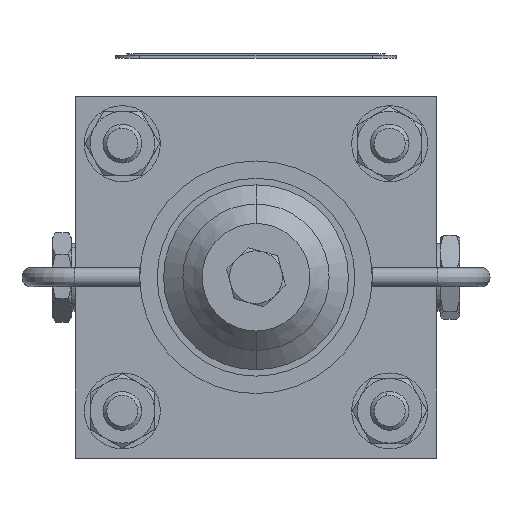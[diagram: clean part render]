
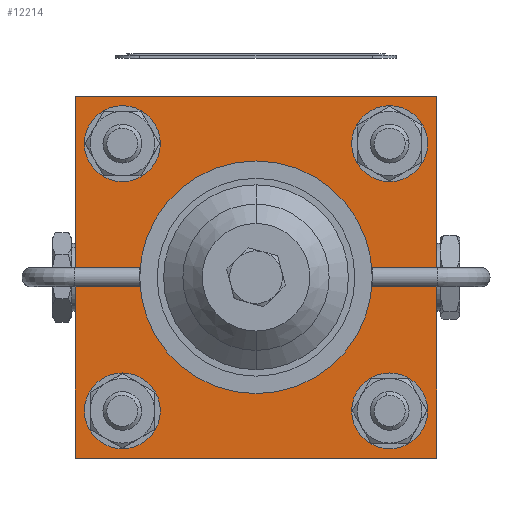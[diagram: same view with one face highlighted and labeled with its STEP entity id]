
A CAD part, front view. The second image highlights one B-rep face of the part: STEP entity #12214.
In plain terms, the highlighted planar face has unit normal (0, -1, 0).
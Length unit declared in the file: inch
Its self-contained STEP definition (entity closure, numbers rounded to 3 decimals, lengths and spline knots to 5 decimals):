
#99 = AXIS2_PLACEMENT_3D ( 'NONE', #2216, #10408, #5285 ) ;
#211 = CARTESIAN_POINT ( 'NONE',  ( 2.58536, -3.5, 2.58536 ) ) ;
#270 = DIRECTION ( 'NONE',  ( 0., 0., 1. ) ) ;
#336 = LINE ( 'NONE', #464, #5578 ) ;
#464 = CARTESIAN_POINT ( 'NONE',  ( -3.5, -3.5, -3.5 ) ) ;
#733 = CARTESIAN_POINT ( 'NONE',  ( 3.5, -3.5, -3.5 ) ) ;
#840 = VERTEX_POINT ( 'NONE', #11353 ) ;
#868 = EDGE_CURVE ( 'NONE', #3344, #12032, #1640, .T. ) ;
#893 = CARTESIAN_POINT ( 'NONE',  ( 2.58536, -3.5, -1.85086 ) ) ;
#1428 = VERTEX_POINT ( 'NONE', #6113 ) ;
#1521 = CARTESIAN_POINT ( 'NONE',  ( 0., -3.5, 0. ) ) ;
#1606 = VERTEX_POINT ( 'NONE', #893 ) ;
#1640 = CIRCLE ( 'NONE', #3321, 0.7345 ) ;
#1685 = CARTESIAN_POINT ( 'NONE',  ( 3.31986, -3.5, 2.58536 ) ) ;
#1738 = EDGE_LOOP ( 'NONE', ( #9902, #4782 ) ) ;
#1919 = FACE_BOUND ( 'NONE', #9270, .T. ) ;
#1961 = CIRCLE ( 'NONE', #10980, 0.7345 ) ;
#2000 = ORIENTED_EDGE ( 'NONE', *, *, #868, .F. ) ;
#2019 = VERTEX_POINT ( 'NONE', #12254 ) ;
#2049 = ORIENTED_EDGE ( 'NONE', *, *, #8032, .F. ) ;
#2165 = CARTESIAN_POINT ( 'NONE',  ( -2.58536, -3.5, -2.58536 ) ) ;
#2176 = EDGE_CURVE ( 'NONE', #8357, #2019, #6452, .T. ) ;
#2216 = CARTESIAN_POINT ( 'NONE',  ( 0., -3.5, 0. ) ) ;
#2265 = CARTESIAN_POINT ( 'NONE',  ( -1.85086, -3.5, -2.58536 ) ) ;
#2509 = EDGE_CURVE ( 'NONE', #1606, #3754, #7933, .T. ) ;
#2519 = LINE ( 'NONE', #733, #11855 ) ;
#2536 = EDGE_CURVE ( 'NONE', #10807, #4552, #2958, .T. ) ;
#2833 = DIRECTION ( 'NONE',  ( 0., -1., 0. ) ) ;
#2958 = LINE ( 'NONE', #6953, #4997 ) ;
#3012 = ORIENTED_EDGE ( 'NONE', *, *, #3151, .F. ) ;
#3151 = EDGE_CURVE ( 'NONE', #8514, #5267, #5163, .T. ) ;
#3173 = CIRCLE ( 'NONE', #9455, 0.7345 ) ;
#3204 = DIRECTION ( 'NONE',  ( 0., 0., 1. ) ) ;
#3271 = CARTESIAN_POINT ( 'NONE',  ( 2.58536, -3.5, 2.58536 ) ) ;
#3321 = AXIS2_PLACEMENT_3D ( 'NONE', #2165, #12394, #5175 ) ;
#3322 = ORIENTED_EDGE ( 'NONE', *, *, #4946, .F. ) ;
#3344 = VERTEX_POINT ( 'NONE', #11904 ) ;
#3754 = VERTEX_POINT ( 'NONE', #11889 ) ;
#3776 = CARTESIAN_POINT ( 'NONE',  ( -2.58536, -3.5, 1.85086 ) ) ;
#3823 = CARTESIAN_POINT ( 'NONE',  ( 0., -3.5, 0. ) ) ;
#3837 = CARTESIAN_POINT ( 'NONE',  ( -3.5, -3.5, 3.5 ) ) ;
#3968 = AXIS2_PLACEMENT_3D ( 'NONE', #1521, #10578, #5591 ) ;
#4194 = CARTESIAN_POINT ( 'NONE',  ( -3.5, -3.5, 3.5 ) ) ;
#4220 = DIRECTION ( 'NONE',  ( 0., -1., 0. ) ) ;
#4319 = DIRECTION ( 'NONE',  ( 0., -1., 0. ) ) ;
#4453 = DIRECTION ( 'NONE',  ( 0., 0., 1. ) ) ;
#4552 = VERTEX_POINT ( 'NONE', #7384 ) ;
#4603 = CARTESIAN_POINT ( 'NONE',  ( 0., -3.5, -2.25 ) ) ;
#4703 = DIRECTION ( 'NONE',  ( 0., -1., 0. ) ) ;
#4747 = DIRECTION ( 'NONE',  ( 0., 1., 0. ) ) ;
#4782 = ORIENTED_EDGE ( 'NONE', *, *, #6202, .F. ) ;
#4792 = ORIENTED_EDGE ( 'NONE', *, *, #2509, .F. ) ;
#4935 = PLANE ( 'NONE',  #10088 ) ;
#4946 = EDGE_CURVE ( 'NONE', #4959, #840, #6264, .T. ) ;
#4959 = VERTEX_POINT ( 'NONE', #4603 ) ;
#4997 = VECTOR ( 'NONE', #10969, 39.37008 ) ;
#5083 = ORIENTED_EDGE ( 'NONE', *, *, #10257, .F. ) ;
#5163 = CIRCLE ( 'NONE', #9155, 0.7345 ) ;
#5175 = DIRECTION ( 'NONE',  ( 0., 0., 1. ) ) ;
#5266 = CARTESIAN_POINT ( 'NONE',  ( -2.58536, -3.5, -2.58536 ) ) ;
#5267 = VERTEX_POINT ( 'NONE', #7117 ) ;
#5285 = DIRECTION ( 'NONE',  ( 0., 0., 1. ) ) ;
#5463 = CIRCLE ( 'NONE', #10282, 0.7345 ) ;
#5578 = VECTOR ( 'NONE', #4453, 39.37008 ) ;
#5591 = DIRECTION ( 'NONE',  ( 0., 0., 1. ) ) ;
#5669 = EDGE_LOOP ( 'NONE', ( #4792, #6677 ) ) ;
#5768 = EDGE_CURVE ( 'NONE', #12032, #3344, #5463, .T. ) ;
#5875 = AXIS2_PLACEMENT_3D ( 'NONE', #9737, #6705, #12877 ) ;
#5915 = FACE_BOUND ( 'NONE', #7355, .T. ) ;
#5944 = ORIENTED_EDGE ( 'NONE', *, *, #2536, .F. ) ;
#6113 = CARTESIAN_POINT ( 'NONE',  ( 3.5, -3.5, 3.5 ) ) ;
#6172 = CARTESIAN_POINT ( 'NONE',  ( -2.58536, -3.5, 2.58536 ) ) ;
#6202 = EDGE_CURVE ( 'NONE', #2019, #8357, #3173, .T. ) ;
#6264 = CIRCLE ( 'NONE', #3968, 2.25 ) ;
#6452 = CIRCLE ( 'NONE', #6878, 0.7345 ) ;
#6509 = DIRECTION ( 'NONE',  ( 0., 0., -1. ) ) ;
#6558 = EDGE_CURVE ( 'NONE', #5267, #8514, #1961, .T. ) ;
#6677 = ORIENTED_EDGE ( 'NONE', *, *, #11482, .F. ) ;
#6705 = DIRECTION ( 'NONE',  ( 0., -1., 0. ) ) ;
#6786 = DIRECTION ( 'NONE',  ( 1., 0., 0. ) ) ;
#6840 = DIRECTION ( 'NONE',  ( 0., 0., 1. ) ) ;
#6878 = AXIS2_PLACEMENT_3D ( 'NONE', #9681, #4703, #8705 ) ;
#6953 = CARTESIAN_POINT ( 'NONE',  ( -3.5, -3.5, -3.5 ) ) ;
#6964 = FACE_BOUND ( 'NONE', #1738, .T. ) ;
#7117 = CARTESIAN_POINT ( 'NONE',  ( 1.85086, -3.5, 2.58536 ) ) ;
#7348 = DIRECTION ( 'NONE',  ( 0., 0., 1. ) ) ;
#7355 = EDGE_LOOP ( 'NONE', ( #9136, #3012 ) ) ;
#7384 = CARTESIAN_POINT ( 'NONE',  ( -3.5, -3.5, -3.5 ) ) ;
#7837 = VECTOR ( 'NONE', #6786, 39.37008 ) ;
#7843 = LINE ( 'NONE', #3837, #7837 ) ;
#7933 = CIRCLE ( 'NONE', #10877, 0.7345 ) ;
#8032 = EDGE_CURVE ( 'NONE', #840, #4959, #8667, .T. ) ;
#8227 = DIRECTION ( 'NONE',  ( 0., 0., 1. ) ) ;
#8350 = EDGE_CURVE ( 'NONE', #12552, #1428, #7843, .T. ) ;
#8357 = VERTEX_POINT ( 'NONE', #3776 ) ;
#8514 = VERTEX_POINT ( 'NONE', #1685 ) ;
#8601 = CIRCLE ( 'NONE', #5875, 0.7345 ) ;
#8667 = CIRCLE ( 'NONE', #99, 2.25 ) ;
#8705 = DIRECTION ( 'NONE',  ( 0., 0., 1. ) ) ;
#8947 = FACE_OUTER_BOUND ( 'NONE', #11151, .T. ) ;
#9136 = ORIENTED_EDGE ( 'NONE', *, *, #6558, .F. ) ;
#9150 = ORIENTED_EDGE ( 'NONE', *, *, #8350, .F. ) ;
#9155 = AXIS2_PLACEMENT_3D ( 'NONE', #211, #12199, #270 ) ;
#9270 = EDGE_LOOP ( 'NONE', ( #2049, #3322 ) ) ;
#9455 = AXIS2_PLACEMENT_3D ( 'NONE', #6172, #11426, #7348 ) ;
#9681 = CARTESIAN_POINT ( 'NONE',  ( -2.58536, -3.5, 2.58536 ) ) ;
#9737 = CARTESIAN_POINT ( 'NONE',  ( 2.58536, -3.5, -2.58536 ) ) ;
#9847 = EDGE_LOOP ( 'NONE', ( #10726, #2000 ) ) ;
#9902 = ORIENTED_EDGE ( 'NONE', *, *, #2176, .F. ) ;
#9927 = FACE_BOUND ( 'NONE', #9847, .T. ) ;
#10088 = AXIS2_PLACEMENT_3D ( 'NONE', #3823, #4747, #6840 ) ;
#10257 = EDGE_CURVE ( 'NONE', #1428, #10807, #2519, .T. ) ;
#10282 = AXIS2_PLACEMENT_3D ( 'NONE', #5266, #4220, #8227 ) ;
#10377 = EDGE_CURVE ( 'NONE', #4552, #12552, #336, .T. ) ;
#10408 = DIRECTION ( 'NONE',  ( 0., -1., 0. ) ) ;
#10578 = DIRECTION ( 'NONE',  ( 0., -1., 0. ) ) ;
#10718 = FACE_BOUND ( 'NONE', #5669, .T. ) ;
#10726 = ORIENTED_EDGE ( 'NONE', *, *, #5768, .F. ) ;
#10807 = VERTEX_POINT ( 'NONE', #12379 ) ;
#10842 = CARTESIAN_POINT ( 'NONE',  ( 2.58536, -3.5, -2.58536 ) ) ;
#10877 = AXIS2_PLACEMENT_3D ( 'NONE', #10842, #2833, #10909 ) ;
#10909 = DIRECTION ( 'NONE',  ( 0., 0., 1. ) ) ;
#10969 = DIRECTION ( 'NONE',  ( -1., 0., 0. ) ) ;
#10980 = AXIS2_PLACEMENT_3D ( 'NONE', #3271, #4319, #3204 ) ;
#11151 = EDGE_LOOP ( 'NONE', ( #5083, #9150, #11742, #5944 ) ) ;
#11353 = CARTESIAN_POINT ( 'NONE',  ( 0., -3.5, 2.25 ) ) ;
#11426 = DIRECTION ( 'NONE',  ( 0., -1., 0. ) ) ;
#11482 = EDGE_CURVE ( 'NONE', #3754, #1606, #8601, .T. ) ;
#11742 = ORIENTED_EDGE ( 'NONE', *, *, #10377, .F. ) ;
#11855 = VECTOR ( 'NONE', #6509, 39.37008 ) ;
#11889 = CARTESIAN_POINT ( 'NONE',  ( 2.58536, -3.5, -3.31986 ) ) ;
#11904 = CARTESIAN_POINT ( 'NONE',  ( -3.31986, -3.5, -2.58536 ) ) ;
#12032 = VERTEX_POINT ( 'NONE', #2265 ) ;
#12199 = DIRECTION ( 'NONE',  ( 0., -1., 0. ) ) ;
#12214 = ADVANCED_FACE ( 'NONE', ( #1919, #9927, #6964, #5915, #10718, #8947 ), #4935, .F. ) ;
#12254 = CARTESIAN_POINT ( 'NONE',  ( -2.58536, -3.5, 3.31986 ) ) ;
#12379 = CARTESIAN_POINT ( 'NONE',  ( 3.5, -3.5, -3.5 ) ) ;
#12394 = DIRECTION ( 'NONE',  ( 0., -1., 0. ) ) ;
#12552 = VERTEX_POINT ( 'NONE', #4194 ) ;
#12877 = DIRECTION ( 'NONE',  ( 0., 0., 1. ) ) ;
